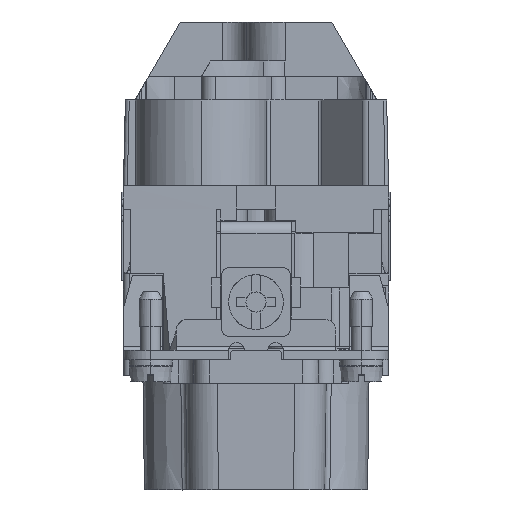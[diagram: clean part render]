
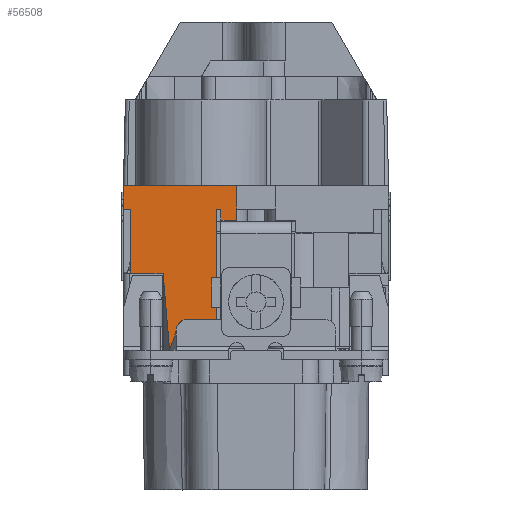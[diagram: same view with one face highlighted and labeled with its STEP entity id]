
A CAD part, left-side view. The second image highlights one B-rep face of the part: STEP entity #56508.
In plain terms, the highlighted planar face has unit normal (-1, 0, 0).
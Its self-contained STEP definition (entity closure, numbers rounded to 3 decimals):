
#315 = VERTEX_POINT ( 'NONE', #49092 ) ;
#3728 = VECTOR ( 'NONE', #19982, 1000. ) ;
#4097 = VERTEX_POINT ( 'NONE', #21191 ) ;
#4936 = ORIENTED_EDGE ( 'NONE', *, *, #28413, .F. ) ;
#8008 = CARTESIAN_POINT ( 'NONE',  ( 73.288, -28.435, -52.7 ) ) ;
#8240 = VERTEX_POINT ( 'NONE', #69414 ) ;
#8449 = CARTESIAN_POINT ( 'NONE',  ( 73.262, -13.935, -43.401 ) ) ;
#9076 = EDGE_CURVE ( 'NONE', #63494, #36640, #26372, .T. ) ;
#9243 = EDGE_CURVE ( 'NONE', #36640, #89288, #38607, .T. ) ;
#9462 = ORIENTED_EDGE ( 'NONE', *, *, #51315, .F. ) ;
#10831 = ORIENTED_EDGE ( 'NONE', *, *, #41111, .T. ) ;
#11244 = CARTESIAN_POINT ( 'NONE',  ( 73.288, -22.185, -58.5 ) ) ;
#11275 = CARTESIAN_POINT ( 'NONE',  ( 73.288, -21.994, -58.5 ) ) ;
#11353 = CARTESIAN_POINT ( 'NONE',  ( 73.288, -21.81, -58.535 ) ) ;
#11370 = CARTESIAN_POINT ( 'NONE',  ( 73.288, -21.611, -58.614 ) ) ;
#11489 = CARTESIAN_POINT ( 'NONE',  ( 73.288, -21.585, -58.625 ) ) ;
#11575 = CARTESIAN_POINT ( 'NONE',  ( 73.288, -21.538, -58.646 ) ) ;
#11602 = CARTESIAN_POINT ( 'NONE',  ( 73.288, -21.469, -58.68 ) ) ;
#11673 = CARTESIAN_POINT ( 'NONE',  ( 73.288, -21.316, -58.77 ) ) ;
#11685 = CARTESIAN_POINT ( 'NONE',  ( 73.288, -21.198, -58.866 ) ) ;
#11902 = CARTESIAN_POINT ( 'NONE',  ( 73.288, -20.978, -59.086 ) ) ;
#11925 = CARTESIAN_POINT ( 'NONE',  ( 73.288, -20.867, -59.256 ) ) ;
#12006 = CARTESIAN_POINT ( 'NONE',  ( 73.288, -20.781, -59.472 ) ) ;
#12022 = CARTESIAN_POINT ( 'NONE',  ( 73.288, -20.774, -59.492 ) ) ;
#12034 = VERTEX_POINT ( 'NONE', #55643 ) ;
#12101 = VECTOR ( 'NONE', #76490, 1000. ) ;
#12140 = CARTESIAN_POINT ( 'NONE',  ( 73.288, -20.758, -59.537 ) ) ;
#12224 = CARTESIAN_POINT ( 'NONE',  ( 73.288, -20.737, -59.605 ) ) ;
#12324 = CARTESIAN_POINT ( 'NONE',  ( 73.288, -20.685, -60. ) ) ;
#12652 = CARTESIAN_POINT ( 'NONE',  ( 73.288, -20.685, -59.905 ) ) ;
#12667 = CARTESIAN_POINT ( 'NONE',  ( 73.288, -20.698, -59.764 ) ) ;
#12731 = EDGE_CURVE ( 'NONE', #33214, #54900, #74606, .T. ) ;
#14273 = CARTESIAN_POINT ( 'NONE',  ( 73.288, -28.435, -41.4 ) ) ;
#14295 = DIRECTION ( 'NONE',  ( 0., 0., -1. ) ) ;
#15875 = VECTOR ( 'NONE', #26292, 1000. ) ;
#16274 = DIRECTION ( 'NONE',  ( 0., 0., 1. ) ) ;
#17025 = CARTESIAN_POINT ( 'NONE',  ( 73.288, -19.035, -52.7 ) ) ;
#17158 = DIRECTION ( 'NONE',  ( 0., -1., 0. ) ) ;
#17858 = CARTESIAN_POINT ( 'NONE',  ( 73.288, -19.86, -62.5 ) ) ;
#19112 = LINE ( 'NONE', #45200, #34526 ) ;
#19982 = DIRECTION ( 'NONE',  ( 0., 0., 1. ) ) ;
#20545 = CARTESIAN_POINT ( 'NONE',  ( 73.288, -20.685, -51.95 ) ) ;
#20987 = DIRECTION ( 'NONE',  ( 0., -1., 0. ) ) ;
#21086 = ORIENTED_EDGE ( 'NONE', *, *, #9076, .T. ) ;
#21105 = CARTESIAN_POINT ( 'NONE',  ( 73.288, -28.435, -58.5 ) ) ;
#21191 = CARTESIAN_POINT ( 'NONE',  ( 73.288, -13.935, -44.4 ) ) ;
#21313 = CARTESIAN_POINT ( 'NONE',  ( 73.288, -28.435, -45.8 ) ) ;
#21332 = DIRECTION ( 'NONE',  ( 0., -1., 0. ) ) ;
#22825 = CARTESIAN_POINT ( 'NONE',  ( 73.288, -28.435, -44.4 ) ) ;
#22996 = VECTOR ( 'NONE', #20987, 1000. ) ;
#26292 = DIRECTION ( 'NONE',  ( 0., 1., 0. ) ) ;
#26294 = CARTESIAN_POINT ( 'NONE',  ( 73.288, -25.835, -58.5 ) ) ;
#26372 = LINE ( 'NONE', #20545, #3728 ) ;
#26422 = EDGE_CURVE ( 'NONE', #4097, #36171, #42222, .T. ) ;
#26626 = CARTESIAN_POINT ( 'NONE',  ( 73.288, -25.935, -44.4 ) ) ;
#26762 = CARTESIAN_POINT ( 'NONE',  ( 73.288, -26.435, -44.4 ) ) ;
#28102 = EDGE_CURVE ( 'NONE', #78766, #8240, #36040, .T. ) ;
#28413 = EDGE_CURVE ( 'NONE', #90533, #54900, #37192, .T. ) ;
#28872 = ORIENTED_EDGE ( 'NONE', *, *, #48863, .F. ) ;
#30913 = CARTESIAN_POINT ( 'NONE',  ( 73.288, -28.435, -45.8 ) ) ;
#31378 = CARTESIAN_POINT ( 'NONE',  ( 73.288, -13.935, -44.4 ) ) ;
#33214 = VERTEX_POINT ( 'NONE', #53985 ) ;
#33359 = ORIENTED_EDGE ( 'NONE', *, *, #67868, .F. ) ;
#33780 = VERTEX_POINT ( 'NONE', #26294 ) ;
#33800 = ORIENTED_EDGE ( 'NONE', *, *, #74267, .F. ) ;
#34526 = VECTOR ( 'NONE', #45529, 1000. ) ;
#35639 = CARTESIAN_POINT ( 'NONE',  ( 73.288, -28.435, -41.4 ) ) ;
#36040 = LINE ( 'NONE', #26626, #15875 ) ;
#36171 = VERTEX_POINT ( 'NONE', #89040 ) ;
#36310 = B_SPLINE_CURVE_WITH_KNOTS ( 'NONE', 3,
 ( #31378, #8449, #92144, #46691 ),
 .UNSPECIFIED., .F., .F.,
 ( 4, 4 ),
 ( 0., 1. ),
 .UNSPECIFIED. ) ;
#36640 = VERTEX_POINT ( 'NONE', #71094 ) ;
#37109 = ORIENTED_EDGE ( 'NONE', *, *, #80486, .T. ) ;
#37192 = LINE ( 'NONE', #14273, #95357 ) ;
#38369 = LINE ( 'NONE', #88637, #56229 ) ;
#38607 = B_SPLINE_CURVE_WITH_KNOTS ( 'NONE', 3,
 ( #12324, #12652, #12667, #12224, #12140, #12022, #12006, #11925, #11902, #11685, #11673, #11602, #11575, #11489, #11370, #11353, #11275, #11244 ),
 .UNSPECIFIED., .F., .F.,
 ( 4, 1, 1, 2, 2, 2, 1, 1, 2, 2, 4 ),
 ( 0., 0.125, 0.187, 0.219, 0.25, 0.5, 0.625, 0.687, 0.719, 0.75, 1. ),
 .UNSPECIFIED. ) ;
#41111 = EDGE_CURVE ( 'NONE', #89288, #33780, #61020, .T. ) ;
#41672 = VECTOR ( 'NONE', #54394, 1000. ) ;
#42222 = LINE ( 'NONE', #22825, #57682 ) ;
#44315 = EDGE_CURVE ( 'NONE', #12034, #36171, #84521, .T. ) ;
#44427 = EDGE_CURVE ( 'NONE', #33780, #8240, #19112, .T. ) ;
#45200 = CARTESIAN_POINT ( 'NONE',  ( 73.288, -25.835, -51.95 ) ) ;
#45529 = DIRECTION ( 'NONE',  ( 0., 0., 1. ) ) ;
#46601 = DIRECTION ( 'NONE',  ( 0., -1., 0. ) ) ;
#46691 = CARTESIAN_POINT ( 'NONE',  ( 73.249, -13.935, -41.401 ) ) ;
#47067 = CARTESIAN_POINT ( 'NONE',  ( 73.288, -47.935, -41.4 ) ) ;
#48863 = EDGE_CURVE ( 'NONE', #63494, #72096, #80312, .T. ) ;
#49092 = CARTESIAN_POINT ( 'NONE',  ( 73.249, -13.935, -41.401 ) ) ;
#50141 = EDGE_LOOP ( 'NONE', ( #28872, #21086, #65972, #10831, #88432, #86168, #9462, #69491, #4936, #33359, #33800, #60489, #83059, #37109 ) ) ;
#51315 = EDGE_CURVE ( 'NONE', #33214, #78766, #38369, .T. ) ;
#53135 = LINE ( 'NONE', #47067, #70857 ) ;
#53985 = CARTESIAN_POINT ( 'NONE',  ( 73.288, -26.435, -45.8 ) ) ;
#54070 = CARTESIAN_POINT ( 'NONE',  ( 73.288, -14.835, -48.55 ) ) ;
#54394 = DIRECTION ( 'NONE',  ( 0., 0., 1. ) ) ;
#54478 = VECTOR ( 'NONE', #21332, 1000. ) ;
#54900 = VERTEX_POINT ( 'NONE', #30913 ) ;
#55643 = CARTESIAN_POINT ( 'NONE',  ( 73.288, -14.835, -52.7 ) ) ;
#56229 = VECTOR ( 'NONE', #88656, 1000. ) ;
#56508 = ADVANCED_FACE ( 'NONE', ( #81728 ), #61463, .T. ) ;
#57682 = VECTOR ( 'NONE', #17158, 1000. ) ;
#60489 = ORIENTED_EDGE ( 'NONE', *, *, #26422, .T. ) ;
#61020 = LINE ( 'NONE', #21105, #22996 ) ;
#61170 = DIRECTION ( 'NONE',  ( 0., 0., 1. ) ) ;
#61258 = DIRECTION ( 'NONE',  ( -1., 0., 0. ) ) ;
#61463 = PLANE ( 'NONE',  #82280 ) ;
#63494 = VERTEX_POINT ( 'NONE', #17858 ) ;
#65586 = CARTESIAN_POINT ( 'NONE',  ( 73.288, -28.435, -62.5 ) ) ;
#65972 = ORIENTED_EDGE ( 'NONE', *, *, #9243, .T. ) ;
#66213 = CARTESIAN_POINT ( 'NONE',  ( 73.288, -22.185, -58.5 ) ) ;
#67868 = EDGE_CURVE ( 'NONE', #315, #90533, #53135, .T. ) ;
#69414 = CARTESIAN_POINT ( 'NONE',  ( 73.288, -25.835, -44.4 ) ) ;
#69491 = ORIENTED_EDGE ( 'NONE', *, *, #12731, .T. ) ;
#70857 = VECTOR ( 'NONE', #46601, 1000. ) ;
#71094 = CARTESIAN_POINT ( 'NONE',  ( 73.288, -20.685, -60. ) ) ;
#72096 = VERTEX_POINT ( 'NONE', #88844 ) ;
#72709 = LINE ( 'NONE', #8008, #12101 ) ;
#74267 = EDGE_CURVE ( 'NONE', #4097, #315, #36310, .T. ) ;
#74606 = LINE ( 'NONE', #21313, #54478 ) ;
#76490 = DIRECTION ( 'NONE',  ( 0., -1., 0. ) ) ;
#77928 = VECTOR ( 'NONE', #16274, 1000. ) ;
#78766 = VERTEX_POINT ( 'NONE', #26762 ) ;
#80312 = LINE ( 'NONE', #17025, #77928 ) ;
#80486 = EDGE_CURVE ( 'NONE', #12034, #72096, #72709, .T. ) ;
#81728 = FACE_OUTER_BOUND ( 'NONE', #50141, .T. ) ;
#82280 = AXIS2_PLACEMENT_3D ( 'NONE', #65586, #61258, #61170 ) ;
#83059 = ORIENTED_EDGE ( 'NONE', *, *, #44315, .F. ) ;
#84521 = LINE ( 'NONE', #54070, #41672 ) ;
#86168 = ORIENTED_EDGE ( 'NONE', *, *, #28102, .F. ) ;
#88432 = ORIENTED_EDGE ( 'NONE', *, *, #44427, .T. ) ;
#88637 = CARTESIAN_POINT ( 'NONE',  ( 73.288, -26.435, -44.4 ) ) ;
#88656 = DIRECTION ( 'NONE',  ( 0., 0., 1. ) ) ;
#88844 = CARTESIAN_POINT ( 'NONE',  ( 73.288, -19.035, -52.7 ) ) ;
#89040 = CARTESIAN_POINT ( 'NONE',  ( 73.288, -14.835, -44.4 ) ) ;
#89288 = VERTEX_POINT ( 'NONE', #66213 ) ;
#90533 = VERTEX_POINT ( 'NONE', #35639 ) ;
#92144 = CARTESIAN_POINT ( 'NONE',  ( 73.236, -13.935, -42.401 ) ) ;
#95357 = VECTOR ( 'NONE', #14295, 1000. ) ;
